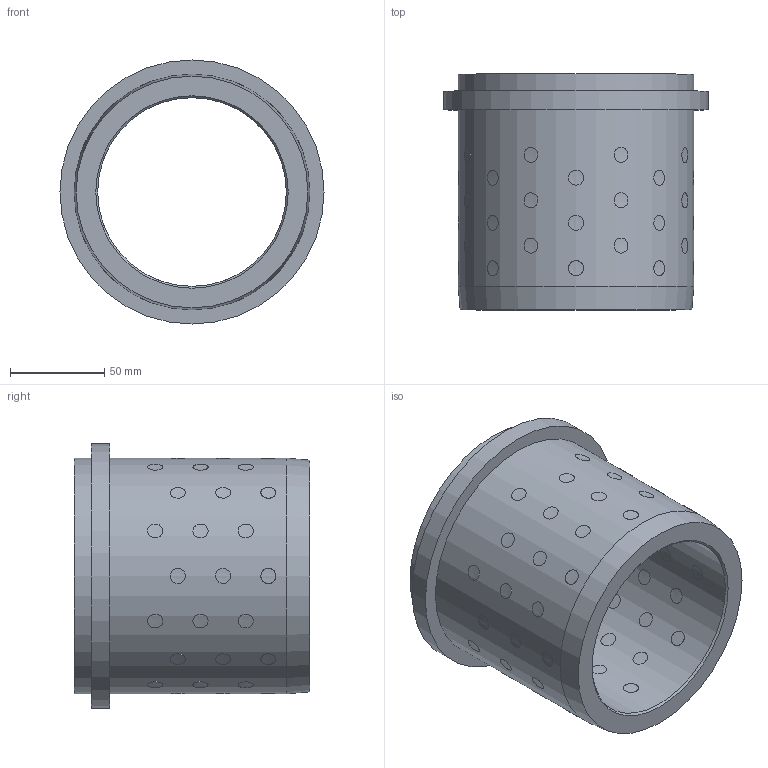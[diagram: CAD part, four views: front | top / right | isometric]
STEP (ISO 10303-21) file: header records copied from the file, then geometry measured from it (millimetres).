
FILE_DESCRIPTION( ( 'STEP AP203' ), '1' );
FILE_NAME( 'D:/Cuma/D30.06/D30.06_100125.step', '2003-01-14T22:02:27', ( ' ' ), ( ' ' ), 'XStep 1.0', ' ', ' ' );
FILE_SCHEMA( ( 'CONFIG_CONTROL_DESIGN' ) );
Length unit declared in the file: metre
Products named in the file (57): 1; 2; 3; 4; 5; 6; 7; 8; 9; 10; 11; 12; 13; 14; 15; 16; 17; 18; 19; 20; 21; 22; 23; 24; 25; 26; 27; 28; 29; 30; 31; 32; 33; 34; 35; 36; 37; 38; 39; 40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
Bounding box: 140 x 125 x 140 mm (x, y, z)
Volume: 608791.8 mm3; surface area: 125220.6 mm2
Topology: 57 solids, 57 shells, 179 faces, 186 edges, 123 vertices
Faces by surface type: cylinder 172, plane 4, cone 2, torus 1
Full cylindrical faces by diameter (mm): 8 x56, 100 x1, 125 x2, 140 x1
Entity records: 12481 total; most frequent: CARTESIAN_POINT 7762, DIRECTION 494, CC_DESIGN_PERSON_AND_ORGANIZATION_ASSIGNMENT 285, AXIS2_PLACEMENT_3D 247, EDGE_LOOP 246, ORIENTED_EDGE 246, FACE_OUTER_BOUND 240, PERSON_AND_ORGANIZATION_ROLE 228
